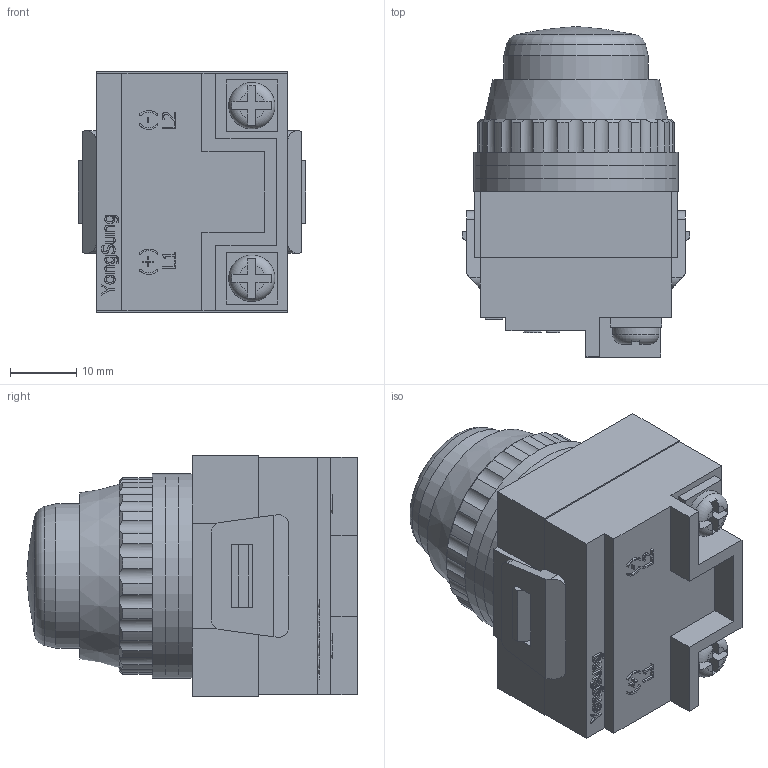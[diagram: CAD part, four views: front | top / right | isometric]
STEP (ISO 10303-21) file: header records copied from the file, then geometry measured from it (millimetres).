
FILE_DESCRIPTION(/* description */ (''),/* implementation_level */ '2;1');
FILE_NAME(/* name */ 'E:\Inventor 2016\제품 외형도\표시등\원형 표시등 (PL)\YS PL2 (25파이-Overall-voltage).stp',/* time_stamp */ '2019-04-09T10:14:40+09:00',/* author */ ('Kim'),/* organization */ (''),/* preprocessor_version */ 'ST-DEVELOPER v16.1',/* originating_system */ 'Autodesk Inventor 2016',/* authorisation */ '');
FILE_SCHEMA (('AUTOMOTIVE_DESIGN { 1 0 10303 214 3 1 1 }'));
Length unit declared in the file: millimetre
Products named in the file (3): 하부; 상부; YS PL2 (25파이-Overall-voltage)
Assembly tree (2 placements, depth 2):
  YS PL2 (25파이-Overall-voltage)
    하부
    상부
Bounding box: 34.4 x 50 x 36.4 mm (x, y, z)
Volume: 36629.2 mm3; surface area: 15413.2 mm2
Topology: 6 solids, 6 shells, 459 faces, 1222 edges, 806 vertices
Faces by surface type: plane 254, bspline 107, cylinder 69, cone 26, torus 3
Full cylindrical faces by diameter (mm): 7 x2, 21.8 x2, 25.2 x4, 31 x3
Entity records: 15180 total; most frequent: CARTESIAN_POINT 4329, ORIENTED_EDGE 2402, DIRECTION 1781, EDGE_CURVE 1201, VERTEX_POINT 802, LINE 765, VECTOR 765, EDGE_LOOP 517
